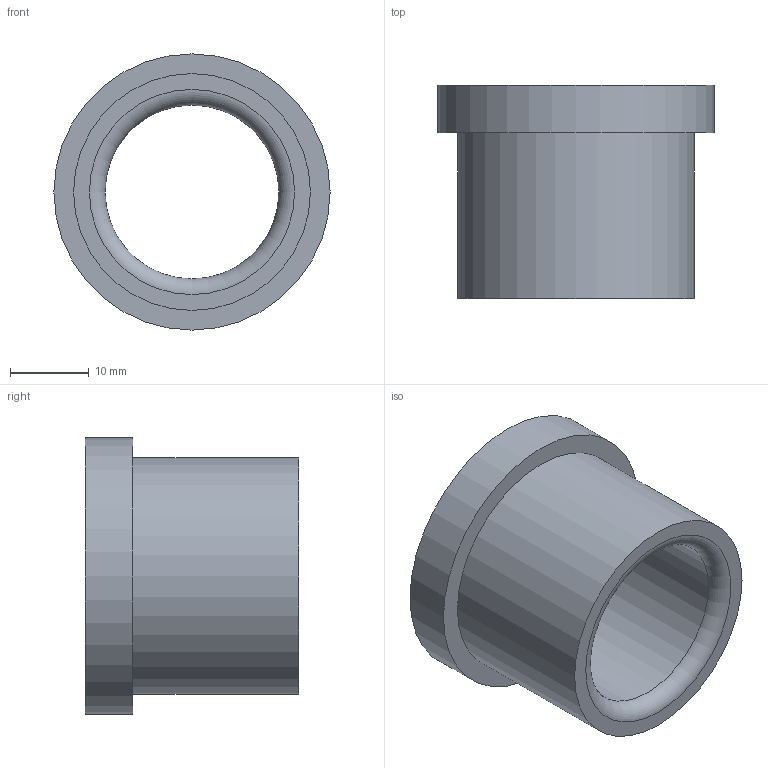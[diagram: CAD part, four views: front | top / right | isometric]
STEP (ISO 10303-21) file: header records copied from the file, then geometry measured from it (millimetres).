
FILE_DESCRIPTION(/* description */ ('STEP AP214'),/* implementation_level */ '2;1');
FILE_NAME(/* name */ '03_12_17928',/* time_stamp */ '2023-06-15T11:35:33+02:00',/* author */ ('License CC BY-ND 4.0'),/* organization */ ('CADENAS'),/* preprocessor_version */ 'ST-DEVELOPER v19.3',/* originating_system */ 'PARTsolutions',/* authorisation */ ' ');
FILE_SCHEMA (('AUTOMOTIVE_DESIGN {1 0 10303 214 3 1 1}'));
Length unit declared in the file: millimetre
Products named in the file (1): VA_Bushing_17928
Bounding box: 35 x 27 x 35 mm (x, y, z)
Volume: 10114.5 mm3; surface area: 5562.5 mm2
Topology: 1 solids, 1 shells, 10 faces, 16 edges, 10 vertices
Faces by surface type: cylinder 4, plane 4, torus 2
Full cylindrical faces by diameter (mm): 22 x1, 22.6 x1, 30 x1, 35 x1
Entity records: 302 total; most frequent: DIRECTION 42, CARTESIAN_POINT 31, AXIS2_PLACEMENT_3D 21, ORIENTED_EDGE 20, EDGE_LOOP 20, FACE_BOUND 20, EDGE_CURVE 10, VERTEX_POINT 10
